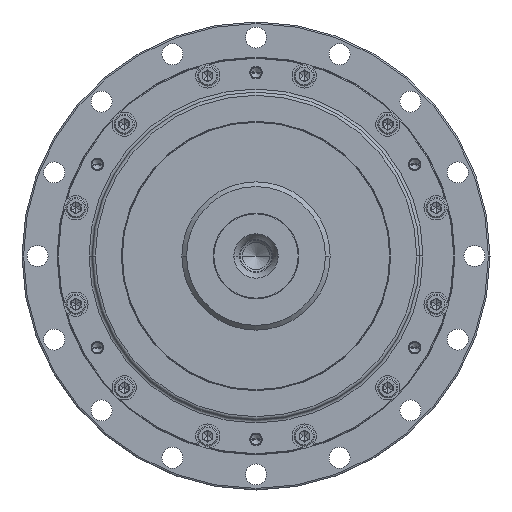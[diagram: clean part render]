
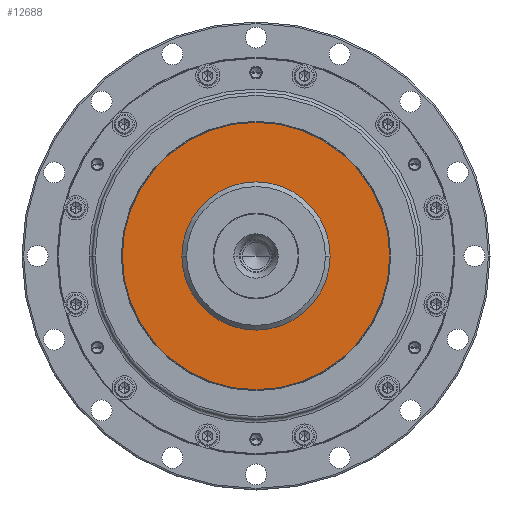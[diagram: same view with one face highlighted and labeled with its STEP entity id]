
A CAD part, left-side view. The second image highlights one B-rep face of the part: STEP entity #12688.
In plain terms, the highlighted planar face has unit normal (-1, 0, 0).
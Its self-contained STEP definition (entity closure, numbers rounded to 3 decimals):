
#9938=CARTESIAN_POINT('',(0.,0.,0.));
#9939=DIRECTION('',(-1.,0.,0.));
#9940=DIRECTION('',(0.,-1.,0.));
#9941=AXIS2_PLACEMENT_3D('',#9938,#9939,#9940);
#9953=CARTESIAN_POINT('',(0.,0.,0.));
#9954=DIRECTION('',(-1.,0.,0.));
#9955=DIRECTION('',(0.,1.,0.));
#9956=AXIS2_PLACEMENT_3D('',#9953,#9954,#9955);
#9958=CARTESIAN_POINT('',(0.,0.,0.));
#9959=DIRECTION('',(-1.,0.,0.));
#9960=DIRECTION('',(0.,-1.,0.));
#9961=AXIS2_PLACEMENT_3D('',#9958,#9959,#9960);
#9963=CARTESIAN_POINT('',(0.,0.,0.));
#9964=DIRECTION('',(-1.,0.,0.));
#9965=DIRECTION('',(0.,1.,0.));
#9966=AXIS2_PLACEMENT_3D('',#9963,#9964,#9965);
#10742=CARTESIAN_POINT('',(0.,85.7,0.));
#10743=CARTESIAN_POINT('',(0.,-85.7,
0.));
#10744=VERTEX_POINT('',#10742);
#10745=VERTEX_POINT('',#10743);
#10958=CARTESIAN_POINT('',(0.,47.5,0.));
#10959=CARTESIAN_POINT('',(0.,-47.5,0.));
#10960=VERTEX_POINT('',#10958);
#10961=VERTEX_POINT('',#10959);
#12672=CARTESIAN_POINT('',(0.,0.,0.));
#12673=DIRECTION('',(1.,0.,0.));
#12674=DIRECTION('',(0.,-1.,0.));
#12675=AXIS2_PLACEMENT_3D('',#12672,#12673,#12674);
#12676=PLANE('',#12675);
#12678=ORIENTED_EDGE('',*,*,#12677,.F.);
#12679=ORIENTED_EDGE('',*,*,#12662,.F.);
#12680=EDGE_LOOP('',(#12678,#12679));
#12681=FACE_OUTER_BOUND('',#12680,.F.);
#12683=ORIENTED_EDGE('',*,*,#12682,.T.);
#12685=ORIENTED_EDGE('',*,*,#12684,.T.);
#12686=EDGE_LOOP('',(#12683,#12685));
#12687=FACE_BOUND('',#12686,.F.);
#12688=ADVANCED_FACE('',(#12681,#12687),#12676,.F.);
#9942=CIRCLE('',#9941,85.7);
#9957=CIRCLE('',#9956,47.5);
#9962=CIRCLE('',#9961,47.5);
#9967=CIRCLE('',#9966,85.7);
#12662=EDGE_CURVE('',#10745,#10744,#9942,.T.);
#12677=EDGE_CURVE('',#10744,#10745,#9967,.T.);
#12682=EDGE_CURVE('',#10960,#10961,#9957,.T.);
#12684=EDGE_CURVE('',#10961,#10960,#9962,.T.);
